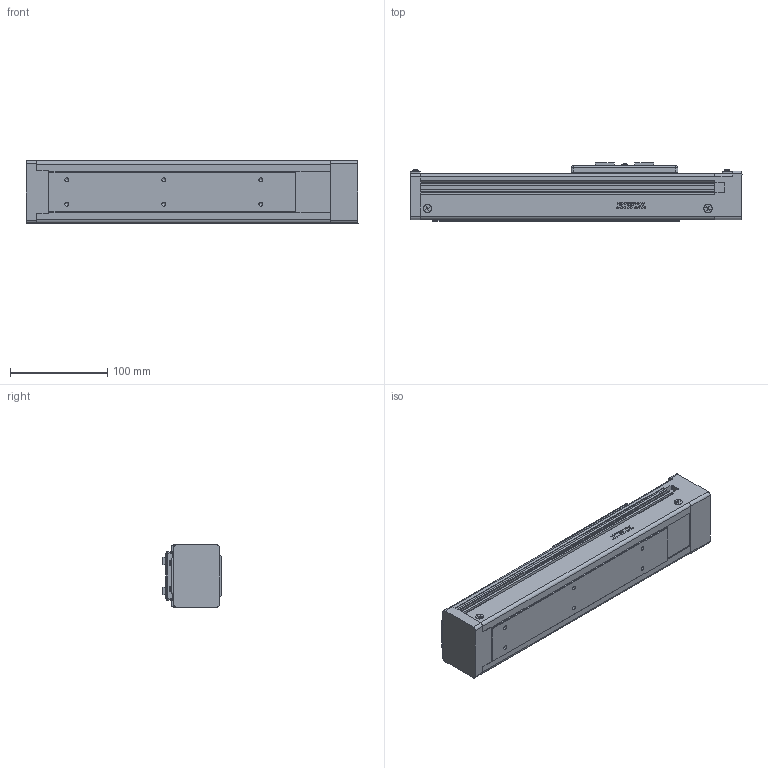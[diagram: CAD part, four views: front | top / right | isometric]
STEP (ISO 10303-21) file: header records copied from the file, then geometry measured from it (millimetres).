
FILE_DESCRIPTION(/* description */ (''),/* implementation_level */ '2;1');
FILE_NAME(/* name */ 'D:\混合母檔20191031\混和母檔\混和母檔\bin\Debug\Download\3D\KE6510C-150AF0\KE6510C-150AF0.stp',/* time_stamp */ '2019-11-04T13:52:45+08:00',/* author */ ('user'),/* organization */ (''),/* preprocessor_version */ 'ST-DEVELOPER v16.13',/* originating_system */ 'Autodesk Inventor 2018',/* authorisation */ '');
FILE_SCHEMA (('AUTOMOTIVE_DESIGN { 1 0 10303 214 3 1 1 }'));
Length unit declared in the file: millimetre
Products named in the file (3): KE6510C-150AF0; KE65-F0-BP; KE65-SL
Assembly tree (2 placements, depth 2):
  KE6510C-150AF0
    KE65-F0-BP
    KE65-SL
Bounding box: 342 x 60 x 64.57 mm (x, y, z)
Volume: 999168.3 mm3; surface area: 126335.9 mm2
Topology: 2 solids, 17 shells, 1076 faces, 2918 edges, 1914 vertices
Faces by surface type: plane 581, cone 160, bspline 136, cylinder 135, torus 54, sphere 10
Full cylindrical faces by diameter (mm): 2.459 x8, 2.729 x4, 3 x4, 3.242 x8, 3.5 x6, 3.571 x4, 4.134 x6, 4.2 x4, 6 x1, 8 x1, 8.4 x8, 30 x1
Entity records: 39303 total; most frequent: CARTESIAN_POINT 12895, ORIENTED_EDGE 5436, DIRECTION 4882, EDGE_CURVE 2718, VERTEX_POINT 1845, LINE 1652, VECTOR 1652, AXIS2_PLACEMENT_3D 1615
